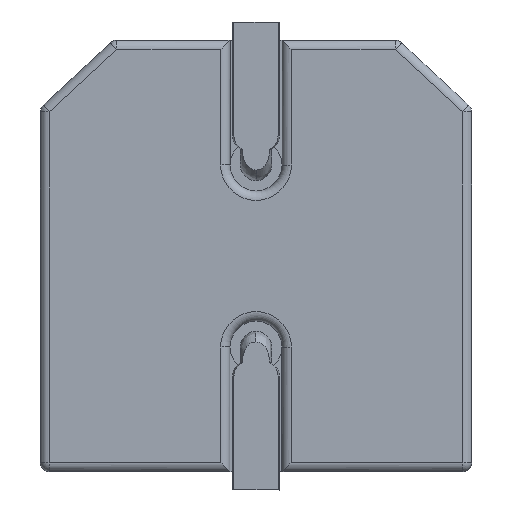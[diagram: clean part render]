
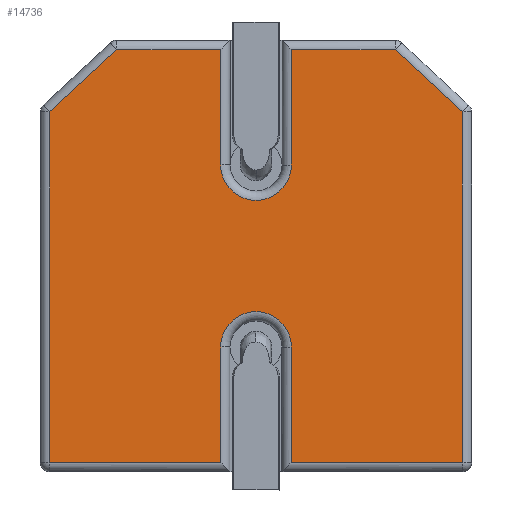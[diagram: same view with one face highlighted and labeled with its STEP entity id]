
A CAD part, left-side view. The second image highlights one B-rep face of the part: STEP entity #14736.
In plain terms, the highlighted planar face has unit normal (-1, 0, 0) as drawn and (0, -1, 0) by its records, which use the part's own axes.
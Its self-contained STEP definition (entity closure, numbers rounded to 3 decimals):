
#13311=DIRECTION('',(-0.733,0.,0.68));
#13312=VECTOR('',#13311,1.761);
#13313=CARTESIAN_POINT('',(3.97,0.,2.772));
#13314=LINE('',#13313,#13312);
#13315=DIRECTION('',(0.,0.,1.));
#13316=VECTOR('',#13315,6.742);
#13317=CARTESIAN_POINT('',(3.97,0.,-3.97));
#13318=LINE('',#13317,#13316);
#13319=DIRECTION('',(1.,0.,0.));
#13320=VECTOR('',#13319,3.29);
#13321=CARTESIAN_POINT('',(0.68,0.,-3.97));
#13322=LINE('',#13321,#13320);
#13323=DIRECTION('',(0.,0.,-1.));
#13324=VECTOR('',#13323,2.22);
#13325=CARTESIAN_POINT('',(0.68,0.,-1.75));
#13326=LINE('',#13325,#13324);
#13327=DIRECTION('',(0.,0.,1.));
#13328=VECTOR('',#13327,2.22);
#13329=CARTESIAN_POINT('',(-0.68,0.,-3.97));
#13330=LINE('',#13329,#13328);
#13331=DIRECTION('',(1.,0.,0.));
#13332=VECTOR('',#13331,3.29);
#13333=CARTESIAN_POINT('',(-3.97,0.,-3.97));
#13334=LINE('',#13333,#13332);
#13335=DIRECTION('',(0.,0.,-1.));
#13336=VECTOR('',#13335,6.742);
#13337=CARTESIAN_POINT('',(-3.97,0.,2.772));
#13338=LINE('',#13337,#13336);
#13339=DIRECTION('',(0.733,0.,0.68));
#13340=VECTOR('',#13339,1.761);
#13341=CARTESIAN_POINT('',(-3.97,0.,2.772));
#13342=LINE('',#13341,#13340);
#13343=DIRECTION('',(-1.,0.,0.));
#13344=VECTOR('',#13343,1.999);
#13345=CARTESIAN_POINT('',(-0.68,0.,3.97));
#13346=LINE('',#13345,#13344);
#13347=DIRECTION('',(0.,0.,1.));
#13348=VECTOR('',#13347,2.22);
#13349=CARTESIAN_POINT('',(-0.68,0.,1.75));
#13350=LINE('',#13349,#13348);
#13351=DIRECTION('',(0.,0.,-1.));
#13352=VECTOR('',#13351,2.22);
#13353=CARTESIAN_POINT('',(0.68,0.,3.97));
#13354=LINE('',#13353,#13352);
#13355=DIRECTION('',(-1.,0.,0.));
#13356=VECTOR('',#13355,1.999);
#13357=CARTESIAN_POINT('',(2.679,0.,3.97));
#13358=LINE('',#13357,#13356);
#13389=CARTESIAN_POINT('',(0.68,0.,3.97));
#13391=CARTESIAN_POINT('',(0.,0.,1.75));
#13392=DIRECTION('',(0.,1.,0.));
#13393=DIRECTION('',(1.,0.,0.));
#13394=AXIS2_PLACEMENT_3D('',#13391,#13392,#13393);
#13473=CARTESIAN_POINT('',(-0.68,0.,-3.97));
#13475=CARTESIAN_POINT('',(0.,0.,-1.75));
#13476=DIRECTION('',(0.,1.,0.));
#13477=DIRECTION('',(-1.,0.,0.));
#13478=AXIS2_PLACEMENT_3D('',#13475,#13476,#13477);
#13495=CARTESIAN_POINT('',(0.68,0.,-3.97));
#14523=CARTESIAN_POINT('',(-3.97,0.,-3.97));
#14525=VERTEX_POINT('',#14523);
#14534=VERTEX_POINT('',#13473);
#14535=CARTESIAN_POINT('',(3.97,0.,-3.97));
#14537=VERTEX_POINT('',#14535);
#14540=VERTEX_POINT('',#13495);
#14559=CARTESIAN_POINT('',(2.679,0.,3.97));
#14561=VERTEX_POINT('',#14559);
#14574=VERTEX_POINT('',#13389);
#14576=CARTESIAN_POINT('',(-2.679,0.,3.97));
#14578=VERTEX_POINT('',#14576);
#14619=CARTESIAN_POINT('',(3.97,0.,2.772));
#14620=VERTEX_POINT('',#14619);
#14621=CARTESIAN_POINT('',(-0.68,0.,3.97));
#14622=VERTEX_POINT('',#14621);
#14669=CARTESIAN_POINT('',(-0.68,0.,-1.75));
#14670=VERTEX_POINT('',#14669);
#14677=CARTESIAN_POINT('',(0.68,0.,-1.75));
#14678=VERTEX_POINT('',#14677);
#14681=CARTESIAN_POINT('',(-3.97,0.,2.772));
#14682=VERTEX_POINT('',#14681);
#14687=CARTESIAN_POINT('',(0.68,0.,1.75));
#14688=VERTEX_POINT('',#14687);
#14695=CARTESIAN_POINT('',(-0.68,0.,1.75));
#14696=VERTEX_POINT('',#14695);
#14701=CARTESIAN_POINT('',(0.,0.,0.));
#14702=DIRECTION('',(0.,1.,0.));
#14703=DIRECTION('',(0.,0.,1.));
#14704=AXIS2_PLACEMENT_3D('',#14701,#14702,#14703);
#14705=PLANE('',#14704);
#14707=ORIENTED_EDGE('',*,*,#14706,.F.);
#14709=ORIENTED_EDGE('',*,*,#14708,.F.);
#14711=ORIENTED_EDGE('',*,*,#14710,.F.);
#14713=ORIENTED_EDGE('',*,*,#14712,.F.);
#14715=ORIENTED_EDGE('',*,*,#14714,.F.);
#14717=ORIENTED_EDGE('',*,*,#14716,.F.);
#14719=ORIENTED_EDGE('',*,*,#14718,.F.);
#14721=ORIENTED_EDGE('',*,*,#14720,.F.);
#14723=ORIENTED_EDGE('',*,*,#14722,.T.);
#14725=ORIENTED_EDGE('',*,*,#14724,.F.);
#14727=ORIENTED_EDGE('',*,*,#14726,.F.);
#14729=ORIENTED_EDGE('',*,*,#14728,.F.);
#14731=ORIENTED_EDGE('',*,*,#14730,.F.);
#14733=ORIENTED_EDGE('',*,*,#14732,.F.);
#14734=EDGE_LOOP('',(#14707,#14709,#14711,#14713,#14715,#14717,#14719,#14721,
#14723,#14725,#14727,#14729,#14731,#14733));
#14735=FACE_OUTER_BOUND('',#14734,.F.);
#14736=ADVANCED_FACE('',(#14735),#14705,.F.);
#13395=CIRCLE('',#13394,0.68);
#13479=CIRCLE('',#13478,0.68);
#14706=EDGE_CURVE('',#14620,#14561,#13314,.T.);
#14708=EDGE_CURVE('',#14537,#14620,#13318,.T.);
#14710=EDGE_CURVE('',#14540,#14537,#13322,.T.);
#14712=EDGE_CURVE('',#14678,#14540,#13326,.T.);
#14714=EDGE_CURVE('',#14670,#14678,#13479,.T.);
#14716=EDGE_CURVE('',#14534,#14670,#13330,.T.);
#14718=EDGE_CURVE('',#14525,#14534,#13334,.T.);
#14720=EDGE_CURVE('',#14682,#14525,#13338,.T.);
#14722=EDGE_CURVE('',#14682,#14578,#13342,.T.);
#14724=EDGE_CURVE('',#14622,#14578,#13346,.T.);
#14726=EDGE_CURVE('',#14696,#14622,#13350,.T.);
#14728=EDGE_CURVE('',#14688,#14696,#13395,.T.);
#14730=EDGE_CURVE('',#14574,#14688,#13354,.T.);
#14732=EDGE_CURVE('',#14561,#14574,#13358,.T.);
